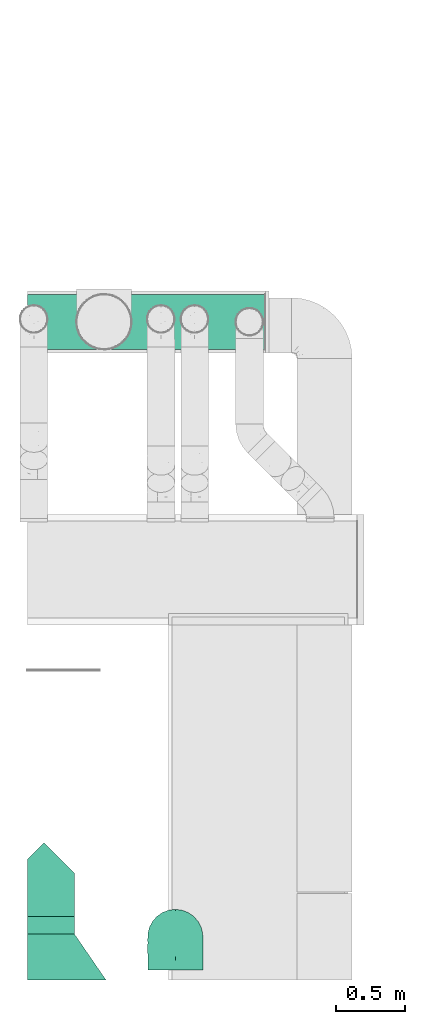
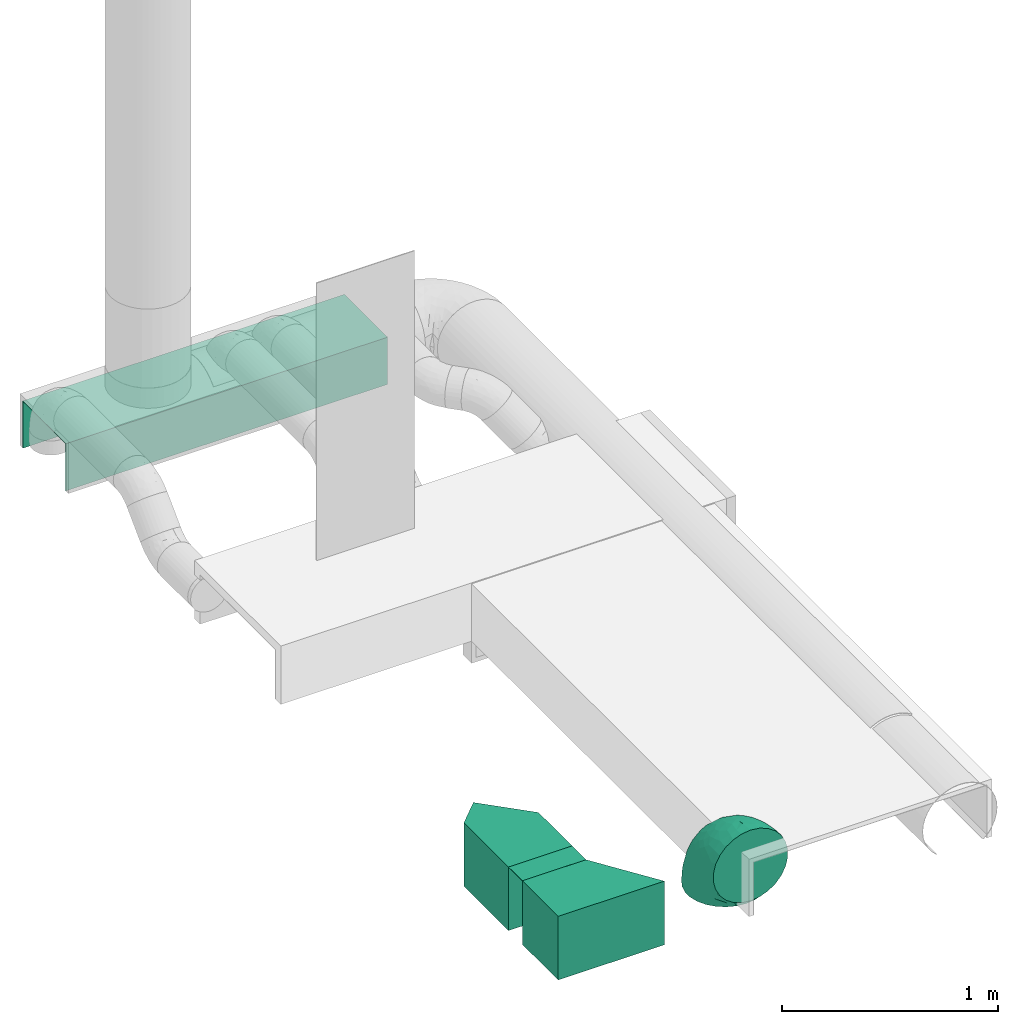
# One storey, part 6 of 9: 3 flow fittings, 2 flow segments.
"""IFC2X3 building model written with IfcOpenShell, lengths in millimetres."""

from ifc_helpers import new_model, entity, si_unit, converted_unit, derived_unit, direction, frame, origin_with_axes, place, context, subcontext, project, spatial, open_shell, faceted_brep, surface_model, source, transform, mapped, type_object, element, save


model = new_model("IFC2X3")

# Units and contexts
model_context = context("Model", 3, precision=0.01, world=frame((0.0, 4.29681676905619e-09, 0.0)), true_north=direction((4.01073788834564e-13, 1.0)))
plan_context = context("Plan", 3, precision=0.01, world=frame((0.0, 4.29681676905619e-09, 0.0)), true_north=direction((4.01073788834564e-13, 1.0)))
body_context = subcontext(model_context, "Body", "Model", "MODEL_VIEW")
ifc_project = project(units=[converted_unit("PLANEANGLEUNIT", "DEGREE", entity("IfcPositiveLengthMeasure", 0.0174532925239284), si_unit("PLANEANGLEUNIT", "RADIAN"), dimensions=[0, 0, 0, 0, 0, 0, 0]), si_unit("AREAUNIT", "SQUARE_METRE"), si_unit("LENGTHUNIT", "METRE", prefix="MILLI"), si_unit("MASSUNIT", "GRAM", prefix="KILO"), si_unit("POWERUNIT", "WATT"), si_unit("PRESSUREUNIT", "PASCAL"), si_unit("FORCEUNIT", "NEWTON", prefix="KILO"), si_unit("ELECTRICVOLTAGEUNIT", "VOLT"), si_unit("ELECTRICCURRENTUNIT", "AMPERE"), si_unit("THERMODYNAMICTEMPERATUREUNIT", "DEGREE_CELSIUS"), si_unit("TIMEUNIT", "SECOND"), si_unit("VOLUMEUNIT", "CUBIC_METRE"), derived_unit("LINEARVELOCITYUNIT", [(si_unit("LENGTHUNIT", "METRE"), 1), (si_unit("TIMEUNIT", "SECOND"), -1)]), derived_unit("VOLUMETRICFLOWRATEUNIT", [(si_unit("VOLUMEUNIT", "CUBIC_METRE"), 1), (si_unit("TIMEUNIT", "SECOND"), -1)]), derived_unit("THERMALTRANSMITTANCEUNIT", [(si_unit("POWERUNIT", "WATT"), 1), (si_unit("THERMODYNAMICTEMPERATUREUNIT", "KELVIN"), -1), (si_unit("AREAUNIT", "SQUARE_METRE"), -1)]), derived_unit("SOUNDPRESSUREUNIT", [(si_unit("PRESSUREUNIT", "PASCAL"), 1)])], contexts=[model_context, plan_context])

# Site, building, storey
site_placement = place(None, frame((0.0, -4.29681676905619e-09, 0.0), z_axis=(0.0, 0.0, 1.0), x_axis=(1.0, 0.0, 0.0)))
site = spatial("IfcSite", under=ifc_project, at=site_placement, Name="ENGM", CompositionType="ELEMENT")
building_placement = place(site_placement, frame((0.0, 4.29681676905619e-09, 0.0), z_axis=(0.0, 0.0, 1.0), x_axis=(1.0, 0.0, 0.0)))
building = spatial("IfcBuilding", under=site, at=building_placement, Name="TH", CompositionType="ELEMENT")
storey_placement = place(building_placement, frame((0.0, 0.0, 205200.0), z_axis=(0.0, 0.0, 1.0), x_axis=(1.0, 0.0, 0.0)))
storey = spatial("IfcBuildingStorey", under=building, at=storey_placement, Name="Nivå D + 1,2 m", CompositionType="ELEMENT", Elevation=205200.0)

# Flow fittings
duct_fitting_type_1 = type_object("IfcDuctFittingType", Name="magicirc_elbow_short_001", PredefinedType="BEND")
shared_shape = source(origin_with_axes(), body_context, "Body", "SurfaceModel", [
    surface_model("IfcShellBasedSurfaceModel", [(-240.6961, 113.61295, -164.59677), (-240.6961, 70.92098, -187.00325), (-240.6961, 24.10734, -198.54177), (-240.6961, -24.10734, -198.54177), (-240.6961, 194.18836, -47.86313), (-240.6961, 177.09121, -92.94464), (-240.6961, 149.70215, -132.62454), (-240.6961, -113.61295, -164.59677), (-240.6961, -70.92098, -187.00325), (-240.6961, -177.09121, -92.94464), (-240.6961, -149.70215, -132.62454), (-240.6961, -194.18836, -47.86313), (-240.6961, -200.0, 0.0), (-240.6961, -194.18836, 47.86313), (-240.6961, 177.09121, 92.94464), (-240.6961, 194.18836, 47.86313), (-240.6961, 200.0, 0.0), (-240.6961, 149.70215, 132.62454), (-240.6961, 70.92098, 187.00325), (-240.6961, 113.61295, 164.59677), (-240.6961, -70.92098, 187.00325), (-240.6961, -177.09121, 92.94464), (-240.6961, -149.70215, 132.62454), (-240.6961, -113.61295, 164.59677), (-240.6961, -24.10734, 198.54177), (-240.6961, 24.10734, 198.54177), (-24.80434, 240.62527, -198.54177), (-71.61779, 240.48968, -187.00325), (-114.30957, 240.36603, -164.59677), (23.41013, 240.7649, -198.54177), (-150.39862, 240.26152, -132.62454), (-177.78757, 240.1822, -92.94464), (-194.88465, 240.13267, -47.86313), (199.30206, 241.27434, 0.0), (70.22358, 240.90048, -187.00325), (176.39336, 241.20797, -92.94464), (112.91537, 241.02413, -164.59677), (149.00442, 241.12865, -132.62454), (193.49044, 241.25749, -47.86313), (193.49044, 241.25749, 47.86313), (-194.88465, 240.13267, 47.86313), (-150.39862, 240.26152, 132.62454), (-177.78757, 240.1822, 92.94464), (-114.30957, 240.36603, 164.59677), (-71.61779, 240.48968, 187.00325), (149.00442, 241.12865, 132.62454), (176.39336, 241.20797, 92.94464), (112.91537, 241.02413, 164.59677), (-24.80434, 240.62527, 198.54177), (23.41013, 240.7649, 198.54177), (70.22358, 240.90048, 187.00325), (-200.69627, 240.11585, 0.0), (-197.44274, -191.46362, 50.08873), (-199.56783, -196.75714, 0.0), (-171.73906, -194.56292, 0.0), (118.54318, 1.55454, 58.76524), (141.79184, 49.75256, 70.42716), (123.23555, 56.15509, 108.93142), (-110.80569, 129.91233, 187.44944), (-60.06572, 129.55924, 197.99022), (-93.08363, 155.38323, 187.40419), (-104.48625, -178.38604, 0.0), (-134.30778, -183.36366, 37.1132), (-138.11266, -186.47448, 0.0), (-202.40587, 117.31344, 166.05077), (-129.33909, -105.13525, 157.97381), (-130.25268, -133.37571, 133.00114), (-91.52604, -120.60836, 132.01079), (-127.8514, 164.84957, 170.57591), (-148.0396, 141.76553, 170.24382), (-198.67628, -178.94157, 84.98953), (-181.70061, -148.00396, 129.44074), (84.64003, -31.08833, 79.601), (66.91255, -20.83147, 115.45989), (55.30647, -51.01482, 96.64551), (175.67672, 158.33392, 77.66118), (146.89172, 185.47592, 130.67819), (153.60147, 118.5101, 101.05817), (-69.28572, 15.41878, 195.42761), (-37.27144, -22.3602, 177.59121), (-20.49045, 20.43117, 186.98546), (-127.29307, -42.40166, 189.37496), (-104.79793, -81.49258, 167.66411), (-69.69797, -54.78303, 172.74694), (-215.55874, 183.18875, 91.43396), (-203.90162, 203.31192, 68.12477), (-187.78, -110.77442, 163.81079), (-211.8909, 68.14, 188.88593), (-240.6961, 92.26696, 175.80001), (-195.19087, 27.55964, 198.70295), (-148.26147, 100.47746, 186.34379), (-176.20451, 124.04451, 168.7694), (-79.79039, 211.73902, 184.73669), (-26.36244, 189.78785, 199.01118), (-79.82333, -141.10618, 99.19229), (-197.41793, 171.08472, 121.81517), (-213.50276, 160.70015, 124.94724), (-182.0643, 151.98839, 148.24906), (-220.66266, 205.37831, 0.0), (-59.59445, -88.50935, 147.45222), (115.64301, 204.46132, 161.40247), (91.56947, 240.96231, 175.80001), (-186.1289, -22.67158, 197.99057), (-204.71167, -62.90812, 189.12973), (-61.0309, 90.70211, 199.89761), (-24.73905, 97.31788, 199.11112), (-30.83075, -106.20583, 113.24807), (104.63019, 26.36723, 111.45512), (-120.40405, 72.50662, 197.12561), (-157.56989, 219.07342, 127.26989), (166.83182, 88.7212, 45.73649), (182.97392, 134.83828, 37.1132), (-184.79428, 185.63505, 117.25552), (-183.50304, 214.56966, 92.33835), (190.89098, 197.99642, 50.08873), (154.59736, 55.37943, 38.38637), (68.1058, 186.90898, 186.0708), (196.17832, 200.13684, 0.0), (-19.96912, -60.29288, 149.64605), (178.3654, 199.19371, 84.98953), (139.83368, 149.77779, 131.05368), (-93.92915, -18.50015, 191.62833), (-117.4161, 200.26957, 166.71848), (-89.68644, -167.94207, 44.46287), (-114.61739, -154.70128, 97.99231), (-157.82447, -176.13456, 77.66118), (100.83616, -30.73912, 40.64892), (115.72026, -18.00655, 0.0), (-206.01653, 220.06693, 0.0), (25.0474, 69.20489, 185.0398), (3.79461, 43.46515, 185.92937), (45.80786, 35.29934, 165.61891), (-157.53931, -75.66973, 180.35603), (17.77461, -72.10134, 112.68461), (13.30284, -106.77001, 62.92601), (53.23528, -72.51595, 65.34374), (-32.68198, 59.01636, 196.78323), (45.76689, -3.42437, 146.71581), (7.1635, -25.35223, 157.62245), (35.81529, -39.76726, 128.38302), (90.99311, 130.32576, 167.45849), (114.6258, 168.16234, 158.08552), (20.27516, 191.9863, 198.38676), (51.71804, 157.39081, 189.53107), (-26.48513, 144.70732, 199.92299), (-68.10809, 172.56905, 192.37245), (-131.68053, 13.67288, 199.68538), (-145.86853, 50.36092, 198.03404), (-165.28253, 31.57473, 199.15632), (-45.4313, -139.96842, 70.38598), (78.30118, -53.79643, 49.89268), (34.6302, 126.52223, 191.46736), (73.83386, 69.29524, 161.57733), (120.34277, 91.87494, 132.01079), (-183.15873, 69.98685, 190.62525), (-106.45364, 37.05506, 199.97233), (3.43755, 155.95002, 199.17046), (141.34114, 82.91512, 100.23093), (178.08268, 105.00246, 0.0), (133.73561, 11.51642, 0.0), (151.75094, 41.0394, 0.0), (139.23846, 25.15149, 37.38579), (-159.69054, -4.4472, 199.23119), (75.61447, 21.67898, 138.44228), (93.23499, 49.3614, 138.2568), (3.84271, 114.8021, 196.9624), (-164.80738, 168.26035, 147.04026), (-152.87524, 190.09614, 143.81103), (-72.54299, -165.1276, 0.0), (-40.59972, -151.86916, 0.0), (-31.94335, -144.24874, 32.7969), (186.07369, 138.65215, 0.0), (194.06472, 172.30184, 0.0), (164.91681, 73.02092, 0.0), (-2.0325, -125.77585, 35.89794), (-16.52744, -123.07774, 71.70283), (44.61136, -93.17187, 0.0), (18.34162, -115.66762, 0.0), (93.30068, -44.34133, 0.0), (-83.12457, 62.82793, 199.97904), (15.80173, 11.20253, 171.00695), (-11.12905, -133.7684, 0.0), (70.8811, -70.67611, 0.0), (-219.52886, 156.93475, -127.26989), (-200.60881, 116.83558, -166.71848), (58.87634, -67.99579, -63.48434), (15.21044, -105.68547, -62.14282), (-130.06168, -91.37018, -167.45849), (-167.82965, -115.11235, -158.08552), (-186.71097, -68.64684, -186.0708), (-94.8252, 110.98726, -194.81089), (-130.23271, 110.42897, -187.44944), (-142.1937, 147.6284, -170.24382), (-88.23765, -167.08808, -45.73649), (-49.34171, -141.93534, -70.42716), (-32.02832, -144.23052, -33.13539), (-203.90162, 203.31192, -68.12477), (22.83898, 36.23606, -176.99784), (-14.71415, 69.95338, -195.36369), (18.22804, 93.98231, -191.62833), (-14.28405, -127.05013, -58.46599), (-29.95106, -107.7135, -110.66461), (-68.7534, 211.69266, -188.88593), (-117.89916, 202.06525, -166.05077), (-59.29167, 32.17217, -196.75848), (-97.38915, 24.45709, -199.11112), (-90.87853, 60.76795, -199.89761), (-215.55874, 183.18875, -91.43396), (54.58094, 69.85633, -172.74692), (98.21228, 43.83807, -130.46896), (57.2568, 12.10525, -147.45742), (-185.47658, 185.8462, -116.37212), (-190.5381, 152.32404, -143.81103), (-165.21917, 127.37342, -170.57591), (-197.44274, -191.46362, -50.08873), (102.73111, -24.63823, -50.33803), (-198.67628, -178.94157, -84.98953), (-185.04971, -147.42828, -130.67819), (-20.49045, 20.43117, -186.98546), (-204.12555, -116.23468, -161.40247), (-134.30778, -183.36366, -37.1132), (-157.82447, -176.13456, -77.66118), (-118.06475, -153.94406, -101.05818), (42.03283, 127.41532, -189.37496), (81.18873, 105.03349, -167.66411), (-191.92678, -20.83109, -198.38678), (147.4771, 182.12849, -129.44074), (-129.73269, 59.69022, -197.99022), (-155.65218, 92.6332, -187.40419), (154.36867, 115.06494, -97.99231), (175.67672, 158.33392, -77.66118), (-149.37219, -140.26688, -131.05369), (-160.94862, 213.14339, -125.34052), (-152.51505, 181.62334, -148.24906), (-15.35987, -64.48794, -143.99515), (-50.69222, -23.11276, -181.25136), (3.41184, -29.97104, -156.94527), (62.31497, 204.893, -189.12972), (22.13243, 186.19378, -197.99057), (-189.86341, 25.81265, -199.01118), (-28.12485, 195.11022, -198.70295), (-100.90644, 147.96984, -186.34379), (-124.55432, 175.8445, -168.7694), (-183.5295, 214.60872, -92.2614), (110.23012, 188.10002, -163.81079), (-240.6961, -92.26696, -175.80001), (-211.96922, 79.17681, -184.73669), (75.21316, 157.75779, -180.35602), (132.99791, 130.6384, -133.00114), (120.34277, 91.87494, -132.01079), (104.76023, 129.64303, -157.97381), (82.60209, -53.33803, -37.03029), (-92.96368, 240.42786, -175.80001), (123.54987, 52.95716, -106.21774), (139.83626, 45.83648, -70.38598), (117.63444, 17.14, -82.96492), (127.95756, 7.53291, -40.63502), (178.3654, 199.19371, -84.98953), (182.97392, 134.83828, -37.1132), (167.68163, 90.17246, -44.46287), (190.89098, 197.99642, -50.08873), (142.34544, 80.0514, -96.65155), (-98.37453, -63.92417, -175.67362), (-85.35725, -93.66787, -153.62925), (-144.78344, 26.06591, -199.92299), (-172.7656, 67.60801, -192.37245), (-157.24038, -52.17365, -189.53107), (35.09481, -15.92472, -146.41756), (52.62201, -34.50303, -117.65726), (-37.06051, 165.86359, -198.63942), (-70.51703, 182.95526, -190.62525), (154.55661, 56.03765, -39.96382), (-91.52604, -120.60836, -132.01079), (-58.00178, 136.78882, -197.71175), (-155.93945, -3.88919, -199.17046), (-82.50543, -141.58068, -100.23093), (-58.63511, -124.29017, -109.66786), (2.67416, 160.97006, -199.36854), (-126.42143, -34.99648, -191.46738), (-87.27922, -32.667, -186.25467), (-114.79052, -4.17518, -196.9624), (-57.97667, -70.97831, -159.48371), (-14.05421, 131.64035, -199.68538), (-169.35836, 164.32382, -146.64224), (17.77461, -72.10134, -112.68461), (79.73443, -39.39496, -75.67114), (90.96284, -5.53, -100.94992), (-32.81615, 105.30173, -199.85154), (-63.06843, 82.94224, -199.97904)], [open_shell([[[0, 1, 2]], [[0, 2, 3]], [[4, 5, 6]], [[7, 6, 0]], [[6, 7, 4]], [[8, 7, 3]], [[7, 0, 3]], [[9, 7, 10]], [[9, 11, 12]], [[4, 7, 9]], [[9, 12, 4]], [[12, 13, 4]], [[14, 15, 16]], [[17, 14, 16]], [[18, 19, 17]], [[13, 17, 16]], [[18, 17, 20]], [[21, 22, 13]], [[23, 13, 22]], [[20, 24, 25]], [[20, 13, 23]], [[20, 17, 13]], [[20, 25, 18]], [[4, 13, 16]], [[26, 27, 28]], [[29, 26, 28]], [[30, 31, 32]], [[30, 32, 28]], [[33, 28, 32]], [[34, 35, 36]], [[34, 29, 28]], [[37, 36, 35]], [[33, 38, 35]], [[28, 35, 34]], [[33, 35, 28]], [[32, 39, 33]], [[32, 40, 41]], [[41, 40, 42]], [[41, 43, 44]], [[44, 32, 41]], [[44, 39, 32]], [[39, 45, 46]], [[45, 39, 47]], [[48, 49, 50]], [[47, 39, 50]], [[39, 44, 50]], [[44, 48, 50]], [[51, 40, 32]], [[52, 53, 54]], [[55, 56, 57]], [[58, 59, 60]], [[52, 13, 53]], [[61, 62, 63]], [[19, 64, 17]], [[65, 66, 67]], [[58, 68, 69]], [[21, 70, 22]], [[70, 71, 22]], [[72, 73, 74]], [[22, 71, 23]], [[75, 76, 77]], [[13, 52, 21]], [[78, 79, 80]], [[81, 82, 83]], [[15, 84, 85]], [[20, 23, 86]], [[18, 87, 88]], [[25, 89, 18]], [[64, 90, 91]], [[92, 93, 44]], [[23, 71, 86]], [[66, 94, 67]], [[19, 87, 64]], [[95, 96, 97]], [[85, 16, 15]], [[16, 85, 98]], [[82, 99, 83]], [[100, 47, 101]], [[89, 25, 102]], [[20, 103, 24]], [[14, 84, 15]], [[104, 105, 59]], [[67, 94, 106]], [[55, 107, 72]], [[108, 58, 90]], [[109, 41, 42]], [[75, 110, 111]], [[112, 113, 85]], [[111, 114, 75]], [[56, 115, 110]], [[45, 47, 76]], [[50, 116, 100]], [[114, 117, 39]], [[99, 118, 83]], [[119, 45, 76]], [[114, 39, 46]], [[76, 100, 120]], [[47, 100, 76]], [[79, 78, 121]], [[122, 92, 43]], [[123, 124, 125]], [[126, 127, 55]], [[103, 102, 24]], [[51, 85, 40]], [[85, 51, 128]], [[85, 128, 98]], [[44, 93, 48]], [[50, 49, 116]], [[129, 130, 131]], [[85, 84, 112]], [[132, 81, 102]], [[122, 41, 109]], [[133, 134, 135]], [[80, 130, 136]], [[41, 122, 43]], [[40, 85, 113]], [[137, 138, 139]], [[140, 141, 116]], [[142, 116, 49]], [[24, 102, 25]], [[143, 116, 142]], [[92, 44, 43]], [[124, 71, 125]], [[144, 93, 145]], [[67, 82, 65]], [[132, 82, 81]], [[146, 147, 148]], [[60, 68, 58]], [[92, 122, 145]], [[125, 62, 123]], [[123, 149, 94]], [[72, 74, 150]], [[106, 134, 133]], [[49, 48, 142]], [[151, 152, 140]], [[120, 153, 77]], [[119, 76, 75]], [[90, 64, 154]], [[64, 91, 96]], [[155, 147, 146]], [[90, 58, 69]], [[155, 146, 121]], [[151, 129, 152]], [[144, 156, 93]], [[105, 144, 59]], [[157, 77, 153]], [[111, 110, 158]], [[57, 56, 157]], [[159, 160, 161]], [[71, 124, 66]], [[103, 86, 132]], [[148, 162, 146]], [[19, 88, 87]], [[48, 93, 142]], [[142, 93, 156]], [[141, 140, 153]], [[107, 163, 73]], [[163, 164, 152]], [[79, 138, 80]], [[165, 129, 151]], [[152, 131, 163]], [[140, 116, 143]], [[152, 153, 140]], [[121, 81, 83]], [[81, 121, 162]], [[96, 84, 14]], [[96, 95, 84]], [[166, 97, 69]], [[167, 109, 113]], [[167, 113, 112]], [[40, 113, 42]], [[14, 17, 96]], [[64, 96, 17]], [[52, 54, 63]], [[70, 21, 52]], [[62, 61, 123]], [[63, 62, 52]], [[52, 62, 125]], [[123, 61, 168]], [[123, 169, 170]], [[46, 119, 114]], [[114, 171, 172]], [[114, 111, 171]], [[158, 171, 111]], [[110, 75, 77]], [[110, 77, 157]], [[115, 173, 110]], [[65, 82, 132]], [[99, 67, 106]], [[170, 174, 175]], [[118, 99, 106]], [[175, 149, 170]], [[134, 176, 135]], [[174, 177, 134]], [[178, 126, 150]], [[67, 99, 82]], [[118, 106, 133]], [[139, 138, 118]], [[79, 83, 118]], [[138, 79, 118]], [[136, 78, 80]], [[155, 78, 179]], [[146, 162, 121]], [[139, 118, 133]], [[138, 137, 180]], [[74, 133, 135]], [[73, 137, 139]], [[74, 73, 139]], [[107, 73, 72]], [[133, 74, 139]], [[74, 135, 150]], [[105, 104, 136]], [[180, 80, 138]], [[131, 180, 137]], [[130, 80, 180]], [[163, 131, 137]], [[152, 129, 131]], [[73, 163, 137]], [[163, 107, 164]], [[131, 130, 180]], [[105, 130, 129]], [[132, 86, 65]], [[66, 124, 94]], [[65, 86, 66]], [[71, 66, 86]], [[72, 150, 126]], [[56, 161, 115]], [[79, 121, 83]], [[155, 121, 78]], [[52, 125, 70]], [[70, 125, 71]], [[45, 119, 46]], [[75, 114, 119]], [[59, 144, 145]], [[165, 144, 105]], [[60, 59, 145]], [[104, 58, 179]], [[58, 104, 59]], [[179, 78, 136]], [[105, 136, 130]], [[179, 136, 104]], [[145, 122, 60]], [[68, 122, 167]], [[122, 68, 60]], [[95, 166, 112]], [[166, 68, 167]], [[69, 97, 91]], [[68, 166, 69]], [[167, 112, 166]], [[129, 165, 105]], [[156, 165, 151]], [[165, 156, 144]], [[156, 151, 143]], [[179, 108, 155]], [[147, 90, 154]], [[147, 155, 108]], [[154, 87, 148]], [[58, 108, 179]], [[147, 108, 90]], [[154, 148, 147]], [[162, 89, 102]], [[89, 162, 148]], [[81, 162, 102]], [[57, 164, 107]], [[153, 152, 164]], [[13, 12, 53]], [[117, 114, 172]], [[117, 33, 39]], [[93, 92, 145]], [[86, 103, 20]], [[102, 103, 132]], [[113, 109, 42]], [[122, 109, 167]], [[100, 116, 141]], [[120, 100, 141]], [[50, 100, 101]], [[89, 148, 87]], [[89, 87, 18]], [[87, 154, 64]], [[126, 55, 72]], [[123, 94, 124]], [[106, 94, 149]], [[170, 169, 181]], [[174, 170, 181]], [[123, 170, 149]], [[177, 174, 181]], [[174, 134, 175]], [[134, 106, 175]], [[106, 149, 175]], [[69, 91, 90]], [[96, 91, 97]], [[153, 120, 141]], [[77, 76, 120]], [[57, 157, 153]], [[110, 157, 56]], [[164, 57, 153]], [[57, 107, 55]], [[156, 143, 142]], [[140, 143, 151]], [[166, 95, 97]], [[84, 95, 112]], [[127, 159, 161]], [[169, 123, 168]], [[176, 134, 177]], [[56, 55, 161]], [[115, 161, 160]], [[127, 161, 55]], [[173, 115, 160]], [[173, 158, 110]], [[176, 182, 135]], [[127, 126, 178]], [[135, 182, 150]], [[178, 150, 182]], [[183, 184, 6]], [[185, 176, 186]], [[187, 188, 189]], [[190, 191, 192]], [[193, 194, 195]], [[183, 6, 5]], [[98, 196, 16]], [[197, 198, 199]], [[186, 200, 201]], [[202, 203, 28]], [[196, 4, 16]], [[204, 205, 206]], [[6, 184, 0]], [[207, 5, 4]], [[208, 209, 210]], [[211, 212, 207]], [[38, 33, 117]], [[191, 213, 192]], [[214, 53, 11]], [[215, 127, 178]], [[11, 9, 214]], [[28, 203, 30]], [[216, 10, 217]], [[198, 197, 218]], [[8, 189, 219]], [[219, 217, 7]], [[220, 214, 221]], [[220, 221, 193]], [[221, 217, 222]], [[223, 224, 208]], [[189, 3, 225]], [[217, 10, 7]], [[37, 226, 36]], [[191, 227, 228]], [[196, 98, 128]], [[229, 226, 230]], [[51, 32, 196]], [[217, 219, 231]], [[211, 232, 233]], [[234, 235, 236]], [[237, 238, 29]], [[196, 207, 4]], [[1, 239, 2]], [[238, 240, 26]], [[203, 241, 242]], [[31, 243, 32]], [[36, 226, 244]], [[34, 237, 29]], [[219, 7, 245]], [[0, 246, 1]], [[247, 223, 238]], [[26, 240, 27]], [[29, 238, 26]], [[36, 244, 34]], [[248, 249, 250]], [[182, 251, 178]], [[27, 202, 252]], [[253, 254, 255]], [[215, 256, 127]], [[246, 239, 1]], [[257, 37, 35]], [[257, 226, 37]], [[171, 158, 258]], [[259, 229, 230]], [[117, 172, 260]], [[38, 117, 260]], [[253, 261, 254]], [[206, 205, 227]], [[8, 3, 189]], [[35, 38, 260]], [[187, 262, 263]], [[211, 243, 232]], [[264, 239, 265]], [[51, 196, 128]], [[266, 189, 225]], [[267, 210, 268]], [[249, 224, 250]], [[247, 224, 223]], [[269, 270, 202]], [[228, 213, 191]], [[246, 184, 265]], [[230, 258, 259]], [[271, 261, 259]], [[271, 159, 256]], [[255, 209, 253]], [[3, 2, 225]], [[188, 187, 272]], [[231, 272, 222]], [[216, 217, 221]], [[241, 203, 270]], [[203, 242, 232]], [[270, 269, 273]], [[190, 192, 241]], [[273, 241, 270]], [[235, 218, 236]], [[264, 274, 239]], [[205, 264, 227]], [[275, 222, 272]], [[220, 193, 61]], [[275, 276, 194]], [[195, 200, 181]], [[226, 229, 248]], [[237, 244, 247]], [[277, 240, 238]], [[28, 252, 202]], [[2, 239, 225]], [[225, 239, 274]], [[266, 187, 189]], [[262, 278, 279]], [[279, 280, 205]], [[281, 234, 201]], [[199, 223, 208]], [[277, 223, 282]], [[211, 207, 196]], [[183, 207, 212]], [[243, 211, 196]], [[211, 233, 283]], [[32, 243, 196]], [[243, 31, 232]], [[31, 30, 232]], [[203, 232, 30]], [[9, 216, 214]], [[214, 63, 54]], [[214, 220, 63]], [[61, 63, 220]], [[193, 221, 222]], [[193, 222, 275]], [[193, 169, 168]], [[260, 172, 171]], [[257, 35, 260]], [[258, 158, 259]], [[171, 258, 260]], [[260, 258, 230]], [[259, 158, 173]], [[259, 173, 271]], [[276, 263, 201]], [[186, 201, 284]], [[186, 284, 185]], [[193, 195, 169]], [[268, 185, 284]], [[251, 182, 185]], [[250, 224, 247]], [[209, 224, 249]], [[251, 285, 215]], [[251, 215, 178]], [[256, 255, 254]], [[255, 215, 286]], [[256, 254, 271]], [[215, 255, 256]], [[255, 286, 209]], [[210, 209, 286]], [[224, 209, 208]], [[268, 210, 286]], [[197, 208, 210]], [[209, 249, 253]], [[249, 248, 261]], [[249, 261, 253]], [[259, 261, 229]], [[268, 286, 285]], [[236, 268, 284]], [[234, 236, 284]], [[236, 218, 197]], [[280, 279, 278]], [[204, 235, 205]], [[247, 244, 250]], [[159, 127, 256]], [[248, 229, 261]], [[250, 244, 248]], [[226, 248, 244]], [[197, 210, 267]], [[204, 198, 218]], [[287, 288, 273]], [[199, 282, 223]], [[197, 199, 208]], [[287, 199, 198]], [[10, 216, 9]], [[221, 214, 216]], [[260, 230, 257]], [[257, 230, 226]], [[227, 264, 265]], [[280, 264, 205]], [[228, 227, 265]], [[191, 190, 206]], [[191, 206, 227]], [[288, 198, 204]], [[288, 204, 206]], [[235, 204, 218]], [[265, 184, 228]], [[213, 184, 212]], [[184, 213, 228]], [[192, 283, 233]], [[283, 213, 212]], [[192, 233, 242]], [[213, 283, 192]], [[211, 283, 212]], [[279, 205, 235]], [[274, 280, 278]], [[235, 281, 279]], [[262, 279, 281]], [[263, 262, 281]], [[266, 262, 187]], [[201, 263, 281]], [[187, 263, 272]], [[280, 274, 264]], [[274, 278, 266]], [[53, 214, 54]], [[53, 12, 11]], [[184, 246, 0]], [[239, 246, 265]], [[244, 237, 34]], [[238, 237, 247]], [[207, 183, 5]], [[184, 183, 212]], [[219, 189, 188]], [[8, 219, 245]], [[219, 188, 231]], [[240, 269, 202]], [[240, 202, 27]], [[202, 270, 203]], [[287, 273, 282]], [[190, 273, 288]], [[192, 242, 241]], [[232, 242, 233]], [[273, 190, 241]], [[206, 190, 288]], [[272, 231, 188]], [[222, 217, 231]], [[276, 275, 272]], [[193, 275, 194]], [[263, 276, 272]], [[276, 201, 200]], [[200, 177, 181]], [[181, 169, 195]], [[200, 195, 194]], [[200, 194, 276]], [[200, 186, 177]], [[223, 277, 238]], [[269, 277, 282]], [[277, 269, 240]], [[273, 269, 282]], [[274, 266, 225]], [[266, 278, 262]], [[271, 160, 159]], [[168, 61, 193]], [[271, 173, 160]], [[261, 271, 254]], [[176, 185, 182]], [[176, 177, 186]], [[285, 251, 185]], [[268, 285, 185]], [[286, 215, 285]], [[201, 234, 284]], [[235, 234, 281]], [[268, 236, 267]], [[197, 267, 236]], [[199, 287, 282]], [[288, 287, 198]]])]),
])
flow_fitting_1_placement = place(storey_placement, frame((896182.4673, 476346.53711, 4230.0), z_axis=(-0.999998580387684, 0.0, 0.00168499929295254), x_axis=(0.0, 1.0, 0.0)))
element("IfcFlowFitting", 1, at=flow_fitting_1_placement, inside=storey, type_object=duct_fitting_type_1, Name="magicirc_elbow_short_001", context=body_context, shape_type="MappedRepresentation", body=[
    mapped(shared_shape, transform((0.0, 0.0, 0.0), scale=1.0)),
])
duct_fitting_type_2 = type_object("IfcDuctFittingType", Name="WA", PredefinedType="BEND")
flow_fitting_2_placement = place(storey_placement, frame((895102.3375, 476662.27678, 4160.0), z_axis=(0.0, 0.0, 1.0), x_axis=(0.0, 1.0, 0.0)))
element("IfcFlowFitting", 2, at=flow_fitting_2_placement, inside=storey, type_object=duct_fitting_type_2, Name="WA", context=body_context, shape_type="Brep", body=[
    faceted_brep([(239.345352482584, -9.5686685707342, 200.0), (243.883258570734, -9.56866857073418, 200.0), (364.64468, -130.33009, 200.0), (7.3663515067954, -9.56866857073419, 200.0), (144.97474, -350.0, 200.0), (0.536360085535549, -9.56866857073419, 200.0), (-160.179397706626, -9.56866857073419, 200.0), (-167.18542, -350.0, 200.0), (-166.455924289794, -9.56866857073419, 200.0), (-167.18542, -9.56866857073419, 200.0), (244.399698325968, -9.56866857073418, 200.0), (246.004568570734, -9.56866857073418, 200.0), (365.70533, -129.26943, 200.0), (-167.18542, -9.56866857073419, 5.46781061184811), (-167.18542, -350.0, -160.0), (-167.18542, -9.56866857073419, -160.0), (144.97474, -350.0, -160.0), (113.758724, -350.0, -160.0), (166.941734, -328.033009, -160.0), (364.64468, -130.33009, -160.0), (365.599265, -129.375496, -160.0), (365.70533, -129.26943, -160.0), (316.207854, -79.771954, -160.0), (246.004568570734, -9.56866857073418, -103.267179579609), (246.004568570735, -9.56866857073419, -160.0)], [[[0, 1, 2]], [[3, 0, 2, 4]], [[5, 3, 4]], [[6, 5, 4, 7]], [[8, 6, 7]], [[9, 8, 7]], [[1, 10, 2]], [[10, 11, 12, 2]], [[13, 9, 7]], [[14, 15, 13, 7]], [[16, 17, 7, 4]], [[17, 14, 7]], [[18, 16, 4, 2]], [[19, 18, 2]], [[20, 19, 2]], [[21, 20, 2, 12]], [[22, 21, 12, 11, 23]], [[23, 24, 22]], [[24, 11, 9, 15]], [[15, 14, 16, 21, 24]]], orient=[[False], [False], [False], [False], [False], [False], [False], [False], [False], [False], [False], [False], [False], [False], [False], [False], [False], [False], [False], [False]]),
])
duct_fitting_type_3 = type_object("IfcDuctFittingType", Name="magirect_reduction1_001", PredefinedType="TRANSITION")
flow_fitting_3_placement = place(storey_placement, frame((895102.3375, 475966.6, 4160.0), z_axis=(0.0, 0.0, 1.0), x_axis=(0.0, 1.0, 0.0)))
element("IfcFlowFitting", 3, at=flow_fitting_3_placement, inside=storey, type_object=duct_fitting_type_3, Name="magirect_reduction1_001", context=body_context, shape_type="Brep", body=[
    faceted_brep([(400.0, -9.56866857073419, 200.0), (400.0, -9.56866857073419, 5.46781061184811), (400.0, -350.0, 200.0), (400.0, -9.56866857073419, -160.0), (400.0, -350.0, -160.0), (68.0769208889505, -59.5673057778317, 200.0), (68.0769208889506, -9.56866857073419, 200.0), (68.0769208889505, -578.197116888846, 200.0), (68.0769208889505, -578.197116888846, 34.0384604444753), (320.0, -405.0, -160.0), (68.0769208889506, -578.197116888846, -34.0384604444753), (68.0769208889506, -578.197116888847, -160.0), (68.0769208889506, -9.56866857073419, -160.0)], [[[0, 1, 2]], [[1, 3, 4, 2]], [[5, 6, 0, 2]], [[7, 5, 2]], [[8, 7, 2]], [[4, 9, 10, 8, 2]], [[9, 11, 10]], [[3, 0, 6, 12]], [[6, 7, 11, 12]], [[11, 4, 3, 12]]], orient=[[False], [False], [False], [False], [False], [False], [False], [False], [False], [False]]),
])

# Flow segments
duct_segment_type = type_object("IfcDuctSegmentType", Name="KK002T - Rektangulære, Forsinket stål", PredefinedType="RIGIDSEGMENT")
flow_segment_1_placement = place(storey_placement, frame((894983.77362, 480797.12038, 4116.87078), z_axis=(0.0, 0.0, 1.0), x_axis=(1.0, 0.0, 0.0)))
element("IfcFlowSegment", 4, at=flow_segment_1_placement, inside=storey, type_object=duct_segment_type, Name="KK002T - Rektangulære, Forsinket stål", context=body_context, shape_type="Brep", body=[
    faceted_brep([(128.132548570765, -198.0, 148.0), (128.132548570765, -198.000000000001, -116.870779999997), (1850.0, -198.0, -116.870779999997), (1850.0, -198.0, 148.0), (128.132548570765, 198.0, 148.0), (1850.0, 198.0, 148.0), (1850.0, 198.0, -116.870779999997), (128.132548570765, 198.000000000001, -116.870779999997), (128.132548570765, 200.0, 150.0), (128.132548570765, 200.0, -116.870779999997), (1850.0, 200.0, -116.870779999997), (1850.0, 200.0, 150.0), (128.132548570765, -200.0, 150.0), (1850.0, -200.0, 150.0), (1850.0, -200.0, -116.870779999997), (128.132548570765, -200.0, -116.870779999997)], [[[0, 1, 2, 3]], [[4, 0, 3, 5]], [[6, 7, 4, 5]], [[8, 9, 10, 11]], [[12, 8, 11, 13]], [[14, 15, 12, 13]], [[10, 6, 5, 3, 2, 14, 13, 11]], [[9, 8, 12, 15, 1, 0, 4, 7]], [[15, 14, 2, 1]], [[7, 6, 10, 9]]], orient=[[False], [False], [False], [False], [False], [False], [False], [False], [False], [False]]),
])
flow_segment_2_placement = place(storey_placement, frame((895102.3375, 476366.6, 4160.0), z_axis=(0.0, 0.0, 1.0), x_axis=(0.0, 1.0, 0.0)))
element("IfcFlowSegment", 5, at=flow_segment_2_placement, inside=storey, type_object=duct_segment_type, Name="KK002T - Rektangulære, Forsinket stål", context=body_context, shape_type="Brep", body=[
    faceted_brep([(0.0, -348.0, -160.0), (128.5, -348.0, -160.0), (128.5, -348.0, 198.0), (0.0, -348.0, 198.0), (128.5, -9.56866857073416, 198.0), (0.0, -9.56866857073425, 198.0), (0.0, -9.56866857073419, 200.0), (128.5, -9.56866857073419, 200.0), (128.5, -350.0, 200.0), (0.0, -350.0, 200.0), (128.5, -350.0, -160.0), (0.0, -350.0, -160.0)], [[[0, 1, 2, 3]], [[4, 5, 3, 2]], [[6, 7, 8, 9]], [[10, 11, 9, 8]], [[11, 0, 3, 5, 6, 9]], [[7, 4, 2, 1, 10, 8]], [[7, 6, 5, 4]], [[11, 10, 1, 0]]], orient=[[False], [False], [False], [False], [False], [False], [False], [False]]),
])

save(model, "model.ifc")
